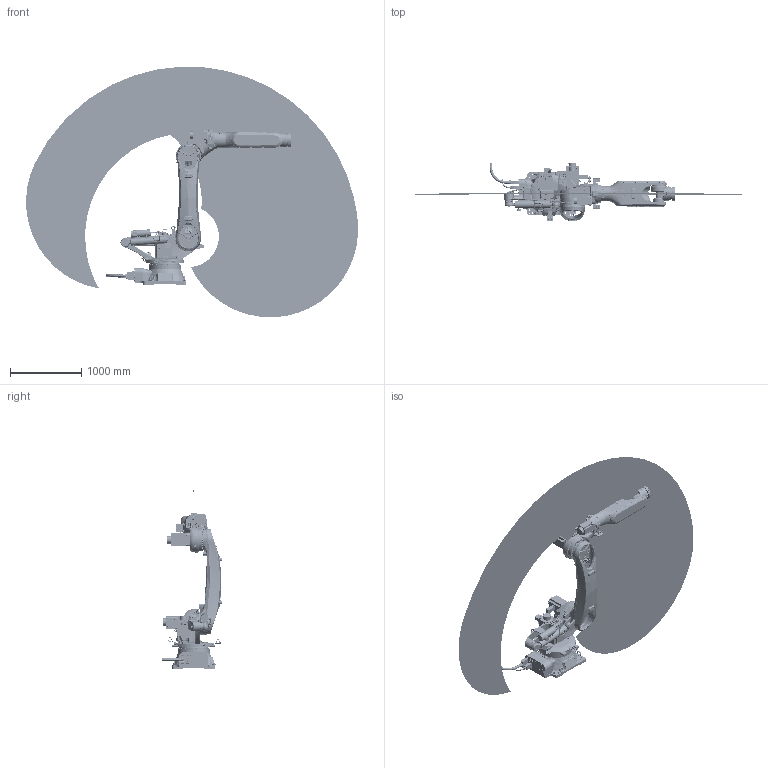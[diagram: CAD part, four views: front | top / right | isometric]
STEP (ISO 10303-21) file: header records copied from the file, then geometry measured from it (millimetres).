
FILE_DESCRIPTION (( 'STEP AP203' ), '1' );
FILE_NAME ('NB220-22027 ¼ò»¯Ä£ÐÍ(20250827).stp', '2025-08-27T10:20:03', ( '' ), ( '' ), 'SwSTEP 2.0', 'SolidWorks 2012', '' );
FILE_SCHEMA (( 'CONFIG_CONTROL_DESIGN' ));
Products named in the file (11): NB220-22027 潠趙耀倰(20250827); NB220-3Dwork-A; NB220-Logo; NB220-xiaobiqian-A_MODEL; NB220-shuchu-A; NB220-yao-A; NB220-xiaobiqian-A; NB220-xiaobihou-A; NB220-shouwan-A; NB220-dabi-A; NB220-base-A
Assembly tree (11 placements, depth 3):
  NB220-22027 潠趙耀倰(20250827)
    NB220-base-A
    NB220-dabi-A
    NB220-shouwan-A
    NB220-xiaobihou-A
    NB220-xiaobiqian-A_MODEL
      NB220-xiaobiqian-A
      NB220-Logo  x2
    NB220-yao-A
    NB220-shuchu-A
    NB220-3Dwork-A
Bounding box: 4645.51 x 826.15 x 3506.2 mm (x, y, z)
Volume: 259133884 mm3; surface area: 20553768.1 mm2
Topology: 27 solids, 90 shells, 12528 faces, 30596 edges, 18844 vertices
Faces by surface type: cylinder 4244, plane 3822, bspline 2364, cone 1073, torus 940, sphere 85
Entity records: 568984 total; most frequent: CARTESIAN_POINT 290789, ORIENTED_EDGE 59740, DIRECTION 55018, EDGE_CURVE 29873, AXIS2_PLACEMENT_3D 21671, VERTEX_POINT 18694, EDGE_LOOP 13752, ADVANCED_FACE 12440
